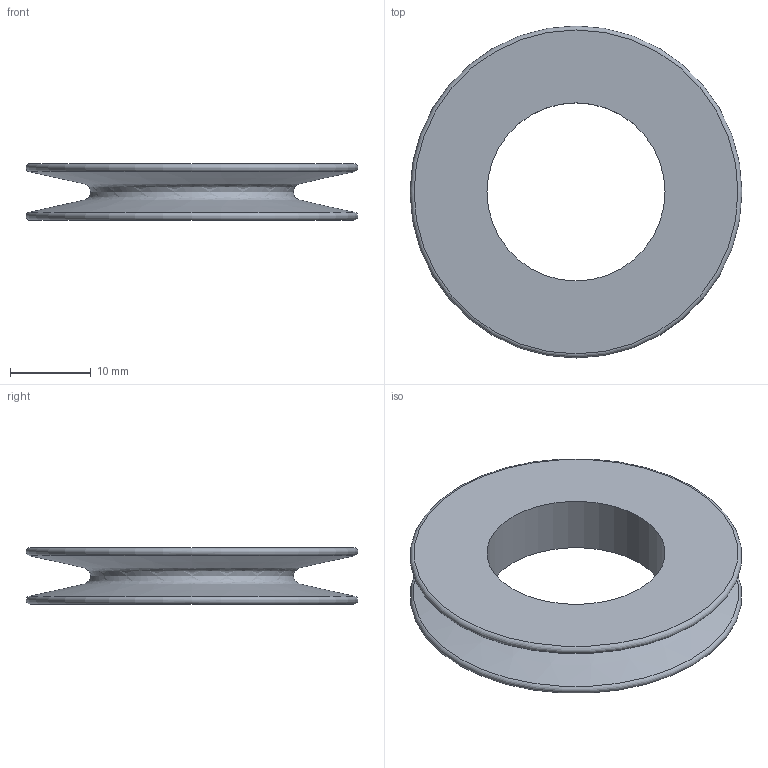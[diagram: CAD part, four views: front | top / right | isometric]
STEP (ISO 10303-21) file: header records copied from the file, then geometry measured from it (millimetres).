
FILE_DESCRIPTION(('FreeCAD Model'),'2;1');
FILE_NAME('Open CASCADE Shape Model','2021-09-08T16:21:45',('Author'),( ''),'Open CASCADE STEP processor 7.5','FreeCAD','Unknown');
FILE_SCHEMA(('AUTOMOTIVE_DESIGN { 1 0 10303 214 1 1 1 1 }'));
Length unit declared in the file: millimetre
Products named in the file (1): Body
Bounding box: 41 x 41 x 7 mm (x, y, z)
Volume: 3624.1 mm3; surface area: 4296.5 mm2
Topology: 1 solids, 1 shells, 8 faces, 14 edges, 8 vertices
Faces by surface type: revolution 3, plane 2, cone 2, cylinder 1
Full cylindrical faces by diameter (mm): 22 x1
Entity records: 417 total; most frequent: DIRECTION 74, CARTESIAN_POINT 62, ORIENTED_EDGE 28, PCURVE 28, DEFINITIONAL_REPRESENTATION 28, LINE 27, VECTOR 27, AXIS2_PLACEMENT_3D 20
